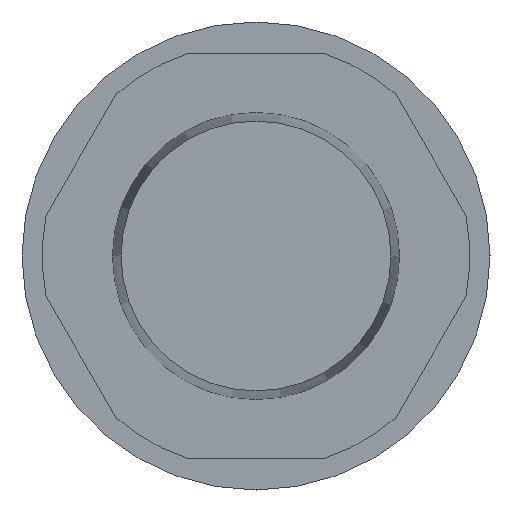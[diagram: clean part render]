
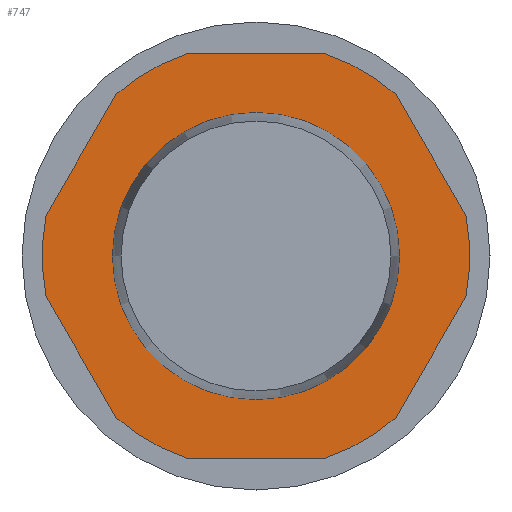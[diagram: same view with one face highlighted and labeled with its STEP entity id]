
A CAD part, left-side view. The second image highlights one B-rep face of the part: STEP entity #747.
In plain terms, the highlighted planar face has unit normal (-1, 0, 0).
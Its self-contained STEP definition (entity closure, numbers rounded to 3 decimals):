
#121=CARTESIAN_POINT('',(-15.25,6.75,0.));
#122=VERTEX_POINT('',#121);
#123=CARTESIAN_POINT('',(-15.25,0.0,0.0));
#124=DIRECTION('',(1.0,0.0,0.0));
#125=DIRECTION('',(0.0,-1.0,0.0));
#126=AXIS2_PLACEMENT_3D('',#123,#124,#125);
#127=CIRCLE('',#126,6.75);
#128=EDGE_CURVE('',#122,#122,#127,.T.);
#460=CARTESIAN_POINT('',(-15.25,9.867,1.91));
#461=VERTEX_POINT('',#460);
#469=CARTESIAN_POINT('',(-15.25,9.867,-1.91));
#470=VERTEX_POINT('',#469);
#477=CARTESIAN_POINT('',(-15.25,0.0,0.0));
#478=DIRECTION('',(1.0,0.0,0.0));
#479=DIRECTION('',(0.0,-1.0,0.0));
#480=AXIS2_PLACEMENT_3D('',#477,#478,#479);
#481=CIRCLE('',#480,10.05);
#482=EDGE_CURVE('',#470,#461,#481,.T.);
#492=CARTESIAN_POINT('',(-15.25,3.279,-9.5));
#493=VERTEX_POINT('',#492);
#500=CARTESIAN_POINT('',(-15.25,6.588,-7.59));
#501=VERTEX_POINT('',#500);
#502=CARTESIAN_POINT('',(-15.25,0.0,0.0));
#503=DIRECTION('',(1.0,0.0,0.0));
#504=DIRECTION('',(0.0,-1.0,0.0));
#505=AXIS2_PLACEMENT_3D('',#502,#503,#504);
#506=CIRCLE('',#505,10.05);
#507=EDGE_CURVE('',#493,#501,#506,.T.);
#524=CARTESIAN_POINT('',(-15.25,3.279,9.5));
#525=VERTEX_POINT('',#524);
#533=CARTESIAN_POINT('',(-15.25,6.588,7.59));
#534=VERTEX_POINT('',#533);
#541=CARTESIAN_POINT('',(-15.25,0.0,0.0));
#542=DIRECTION('',(1.0,0.0,0.0));
#543=DIRECTION('',(0.0,-1.0,0.0));
#544=AXIS2_PLACEMENT_3D('',#541,#542,#543);
#545=CIRCLE('',#544,10.05);
#546=EDGE_CURVE('',#534,#525,#545,.T.);
#556=CARTESIAN_POINT('',(-15.25,-6.588,-7.59));
#557=VERTEX_POINT('',#556);
#564=CARTESIAN_POINT('',(-15.25,-3.279,-9.5));
#565=VERTEX_POINT('',#564);
#566=CARTESIAN_POINT('',(-15.25,0.0,0.0));
#567=DIRECTION('',(1.0,0.0,0.0));
#568=DIRECTION('',(0.0,-1.0,0.0));
#569=AXIS2_PLACEMENT_3D('',#566,#567,#568);
#570=CIRCLE('',#569,10.05);
#571=EDGE_CURVE('',#557,#565,#570,.T.);
#588=CARTESIAN_POINT('',(-15.25,-6.588,7.59));
#589=VERTEX_POINT('',#588);
#597=CARTESIAN_POINT('',(-15.25,-3.279,9.5));
#598=VERTEX_POINT('',#597);
#605=CARTESIAN_POINT('',(-15.25,0.0,0.0));
#606=DIRECTION('',(1.0,0.0,0.0));
#607=DIRECTION('',(0.0,-1.0,0.0));
#608=AXIS2_PLACEMENT_3D('',#605,#606,#607);
#609=CIRCLE('',#608,10.05);
#610=EDGE_CURVE('',#598,#589,#609,.T.);
#620=CARTESIAN_POINT('',(-15.25,-9.867,1.91));
#621=VERTEX_POINT('',#620);
#628=CARTESIAN_POINT('',(-15.25,-9.867,-1.91));
#629=VERTEX_POINT('',#628);
#630=CARTESIAN_POINT('',(-15.25,0.0,0.0));
#631=DIRECTION('',(1.0,0.0,0.0));
#632=DIRECTION('',(0.0,-1.0,0.0));
#633=AXIS2_PLACEMENT_3D('',#630,#631,#632);
#634=CIRCLE('',#633,10.05);
#635=EDGE_CURVE('',#621,#629,#634,.T.);
#653=CARTESIAN_POINT('',(-15.25,-9.867,-1.91));
#654=DIRECTION('',(0.0,0.5,-0.866));
#655=VECTOR('',#654,6.558);
#656=LINE('',#653,#655);
#657=EDGE_CURVE('',#629,#557,#656,.T.);
#672=CARTESIAN_POINT('',(-15.25,3.279,9.5));
#673=DIRECTION('',(0.0,-1.0,0.0));
#674=VECTOR('',#673,6.558);
#675=LINE('',#672,#674);
#676=EDGE_CURVE('',#525,#598,#675,.T.);
#687=CARTESIAN_POINT('',(-15.25,-3.279,-9.5));
#688=DIRECTION('',(0.0,1.0,0.0));
#689=VECTOR('',#688,6.558);
#690=LINE('',#687,#689);
#691=EDGE_CURVE('',#565,#493,#690,.T.);
#706=CARTESIAN_POINT('',(-15.25,9.867,1.91));
#707=DIRECTION('',(0.0,-0.5,0.866));
#708=VECTOR('',#707,6.558);
#709=LINE('',#706,#708);
#710=EDGE_CURVE('',#461,#534,#709,.T.);
#715=CARTESIAN_POINT('',(-15.25,0.,0.));
#716=DIRECTION('',(1.0,0.0,0.0));
#717=DIRECTION('',(0.0,0.0,-1.0));
#718=AXIS2_PLACEMENT_3D('',#715,#716,#717);
#719=PLANE('',#718);
#720=ORIENTED_EDGE('',*,*,#610,.F.);
#721=ORIENTED_EDGE('',*,*,#676,.F.);
#722=ORIENTED_EDGE('',*,*,#546,.F.);
#723=ORIENTED_EDGE('',*,*,#710,.F.);
#724=ORIENTED_EDGE('',*,*,#482,.F.);
#725=CARTESIAN_POINT('',(-15.25,6.588,-7.59));
#726=DIRECTION('',(0.0,0.5,0.866));
#727=VECTOR('',#726,6.558);
#728=LINE('',#725,#727);
#729=EDGE_CURVE('',#501,#470,#728,.T.);
#730=ORIENTED_EDGE('',*,*,#729,.F.);
#731=ORIENTED_EDGE('',*,*,#507,.F.);
#732=ORIENTED_EDGE('',*,*,#691,.F.);
#733=ORIENTED_EDGE('',*,*,#571,.F.);
#734=ORIENTED_EDGE('',*,*,#657,.F.);
#735=ORIENTED_EDGE('',*,*,#635,.F.);
#736=CARTESIAN_POINT('',(-15.25,-6.588,7.59));
#737=DIRECTION('',(0.0,-0.5,-0.866));
#738=VECTOR('',#737,6.558);
#739=LINE('',#736,#738);
#740=EDGE_CURVE('',#589,#621,#739,.T.);
#741=ORIENTED_EDGE('',*,*,#740,.F.);
#742=EDGE_LOOP('',(#720,#721,#722,#723,#724,#730,#731,#732,#733,#734,#735,#741));
#743=FACE_OUTER_BOUND('',#742,.T.);
#744=ORIENTED_EDGE('',*,*,#128,.T.);
#745=EDGE_LOOP('',(#744));
#746=FACE_BOUND('',#745,.T.);
#747=ADVANCED_FACE('',(#743,#746),#719,.F.);
